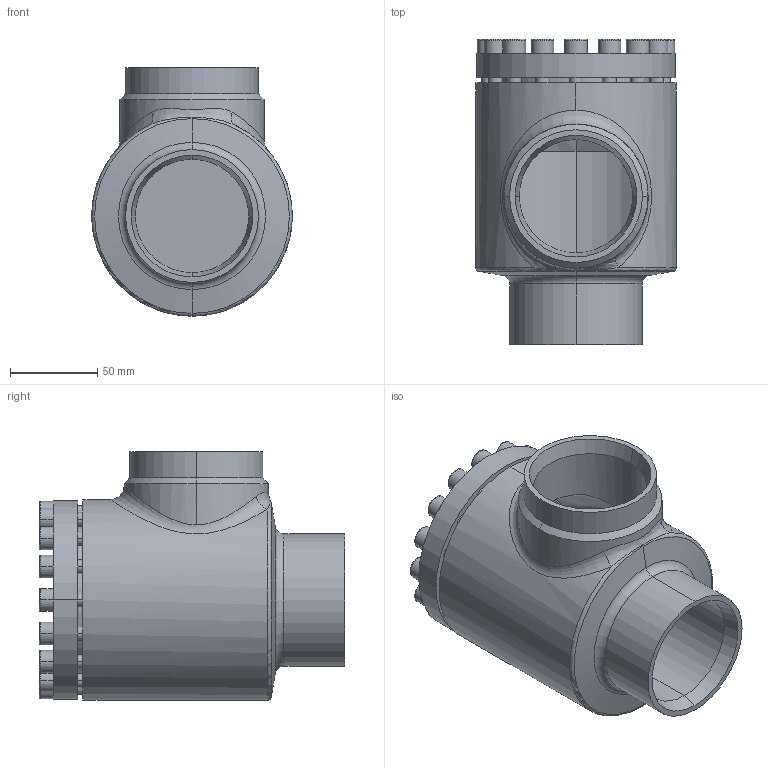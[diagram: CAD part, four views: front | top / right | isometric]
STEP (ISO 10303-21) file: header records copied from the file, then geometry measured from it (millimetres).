
FILE_DESCRIPTION (( 'STEP AP214' ), '1' );
FILE_NAME ('SS52400D17-DN065_R1_PS40.STEP', '2006-05-02T05:51:45', ( 'Herr Grams' ), ( 'AWP GmbH' ), 'SwSTEP 2.0', 'SolidWorks 2002296', '' );
FILE_SCHEMA (( 'AUTOMOTIVE_DESIGN' ));
Length unit declared in the file: millimetre
Products named in the file (5): SS52400D17-DN065_R1_PS40; Gehäuse16400-DN065_Standard; SS52300K17_Deck+Schr-DN65_Standard; Deckel52300K17-DN65_Standard; Zylinderschraube-DIN912_M 8x 25
Assembly tree (19 placements, depth 3):
  SS52400D17-DN065_R1_PS40
    SS52300K17_Deck+Schr-DN65_Standard
      Zylinderschraube-DIN912_M 8x 25  x16
      Deckel52300K17-DN65_Standard
    Gehäuse16400-DN065_Standard
Bounding box: 115 x 175 x 142.5 mm (x, y, z)
Volume: 642747.1 mm3; surface area: 168039.9 mm2
Topology: 18 solids, 18 shells, 370 faces, 814 edges, 515 vertices
Faces by surface type: plane 170, cylinder 120, cone 42, torus 36, bspline 2
Entity records: 13846 total; most frequent: CARTESIAN_POINT 10839, DIRECTION 610, ORIENTED_EDGE 488, AXIS2_PLACEMENT_3D 259, EDGE_CURVE 244, VERTEX_POINT 155, EDGE_LOOP 141, CIRCLE 138
